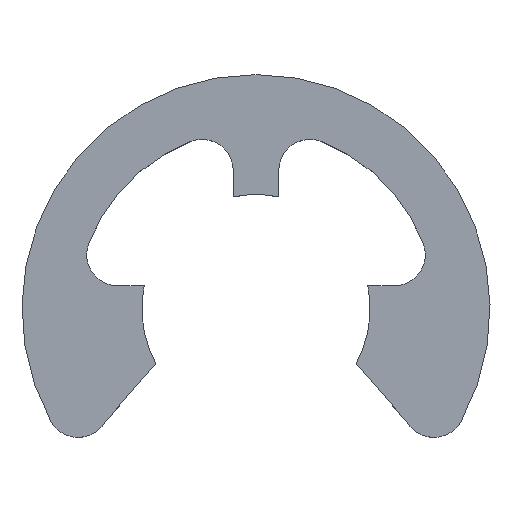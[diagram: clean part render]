
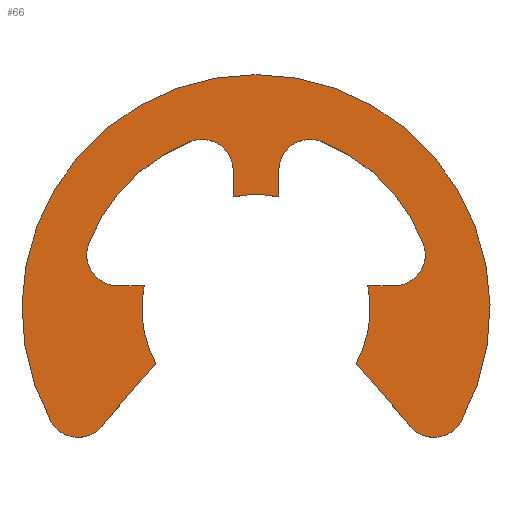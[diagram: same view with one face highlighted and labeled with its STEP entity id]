
A CAD part, top view. The second image highlights one B-rep face of the part: STEP entity #66.
In plain terms, the highlighted planar face has unit normal (0, 0, 1).
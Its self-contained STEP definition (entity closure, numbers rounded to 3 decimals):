
#66=ADVANCED_FACE('',(#86),#234,.T.);
#86=FACE_OUTER_BOUND('',#106,.F.);
#106=EDGE_LOOP('',(#126,#127,#128,#129,#130,#131,#132,#133,#134,#135,#136,
#137,#138,#139,#140,#141,#142,#143));
#126=ORIENTED_EDGE('',*,*,#302,.T.);
#127=ORIENTED_EDGE('',*,*,#319,.T.);
#128=ORIENTED_EDGE('',*,*,#318,.T.);
#129=ORIENTED_EDGE('',*,*,#317,.T.);
#130=ORIENTED_EDGE('',*,*,#316,.T.);
#131=ORIENTED_EDGE('',*,*,#315,.T.);
#132=ORIENTED_EDGE('',*,*,#314,.F.);
#133=ORIENTED_EDGE('',*,*,#313,.F.);
#134=ORIENTED_EDGE('',*,*,#312,.F.);
#135=ORIENTED_EDGE('',*,*,#311,.T.);
#136=ORIENTED_EDGE('',*,*,#310,.T.);
#137=ORIENTED_EDGE('',*,*,#309,.T.);
#138=ORIENTED_EDGE('',*,*,#308,.T.);
#139=ORIENTED_EDGE('',*,*,#307,.T.);
#140=ORIENTED_EDGE('',*,*,#306,.T.);
#141=ORIENTED_EDGE('',*,*,#305,.T.);
#142=ORIENTED_EDGE('',*,*,#304,.T.);
#143=ORIENTED_EDGE('',*,*,#303,.T.);
#234=PLANE('',#442);
#242=LINE('',#623,#272);
#243=LINE('',#625,#273);
#244=LINE('',#629,#274);
#245=LINE('',#631,#275);
#246=LINE('',#635,#276);
#247=LINE('',#637,#277);
#272=VECTOR('',#467,0.691);
#273=VECTOR('',#470,0.691);
#274=VECTOR('',#477,0.691);
#275=VECTOR('',#480,2.039);
#276=VECTOR('',#487,2.039);
#277=VECTOR('',#490,0.691);
#302=EDGE_CURVE('',#415,#414,#356,.T.);
#303=EDGE_CURVE('',#413,#415,#242,.T.);
#304=EDGE_CURVE('',#412,#413,#357,.T.);
#305=EDGE_CURVE('',#411,#412,#243,.T.);
#306=EDGE_CURVE('',#410,#411,#358,.T.);
#307=EDGE_CURVE('',#409,#410,#359,.T.);
#308=EDGE_CURVE('',#408,#409,#360,.T.);
#309=EDGE_CURVE('',#407,#408,#244,.T.);
#310=EDGE_CURVE('',#406,#407,#361,.T.);
#311=EDGE_CURVE('',#405,#406,#245,.T.);
#312=EDGE_CURVE('',#405,#404,#362,.T.);
#313=EDGE_CURVE('',#404,#403,#363,.T.);
#314=EDGE_CURVE('',#403,#402,#364,.T.);
#315=EDGE_CURVE('',#401,#402,#246,.T.);
#316=EDGE_CURVE('',#400,#401,#365,.T.);
#317=EDGE_CURVE('',#399,#400,#247,.T.);
#318=EDGE_CURVE('',#398,#399,#366,.T.);
#319=EDGE_CURVE('',#414,#398,#367,.T.);
#356=CIRCLE('',#418,0.819);
#357=CIRCLE('',#419,3.);
#358=CIRCLE('',#420,0.819);
#359=CIRCLE('',#421,4.716);
#360=CIRCLE('',#422,0.819);
#361=CIRCLE('',#423,3.);
#362=CIRCLE('',#424,0.819);
#363=CIRCLE('',#425,6.15);
#364=CIRCLE('',#426,0.819);
#365=CIRCLE('',#427,3.);
#366=CIRCLE('',#428,0.819);
#367=CIRCLE('',#429,4.716);
#398=VERTEX_POINT('',#604);
#399=VERTEX_POINT('',#605);
#400=VERTEX_POINT('',#606);
#401=VERTEX_POINT('',#607);
#402=VERTEX_POINT('',#608);
#403=VERTEX_POINT('',#609);
#404=VERTEX_POINT('',#610);
#405=VERTEX_POINT('',#611);
#406=VERTEX_POINT('',#612);
#407=VERTEX_POINT('',#613);
#408=VERTEX_POINT('',#614);
#409=VERTEX_POINT('',#615);
#410=VERTEX_POINT('',#616);
#411=VERTEX_POINT('',#617);
#412=VERTEX_POINT('',#618);
#413=VERTEX_POINT('',#619);
#414=VERTEX_POINT('',#620);
#415=VERTEX_POINT('',#621);
#418=AXIS2_PLACEMENT_3D('',#622,#465,#466);
#419=AXIS2_PLACEMENT_3D('',#624,#468,#469);
#420=AXIS2_PLACEMENT_3D('',#626,#471,#472);
#421=AXIS2_PLACEMENT_3D('',#627,#473,#474);
#422=AXIS2_PLACEMENT_3D('',#628,#475,#476);
#423=AXIS2_PLACEMENT_3D('',#630,#478,#479);
#424=AXIS2_PLACEMENT_3D('',#632,#481,#482);
#425=AXIS2_PLACEMENT_3D('',#633,#483,#484);
#426=AXIS2_PLACEMENT_3D('',#634,#485,#486);
#427=AXIS2_PLACEMENT_3D('',#636,#488,#489);
#428=AXIS2_PLACEMENT_3D('',#638,#491,#492);
#429=AXIS2_PLACEMENT_3D('',#639,#493,#494);
#442=AXIS2_PLACEMENT_3D('',#676,#543,#544);
#465=DIRECTION('',(0.,0.,1.));
#466=DIRECTION('',(1.,0.,0.));
#467=DIRECTION('',(0.,1.,0.));
#468=DIRECTION('',(0.,0.,1.));
#469=DIRECTION('',(0.2,0.98,0.));
#470=DIRECTION('',(0.,-1.,0.));
#471=DIRECTION('',(0.,0.,1.));
#472=DIRECTION('',(0.364,0.931,0.));
#473=DIRECTION('',(0.,0.,1.));
#474=DIRECTION('',(0.931,0.364,0.));
#475=DIRECTION('',(0.,0.,1.));
#476=DIRECTION('',(0.,-1.,0.));
#477=DIRECTION('',(1.,0.,0.));
#478=DIRECTION('',(0.,0.,1.));
#479=DIRECTION('',(0.877,-0.481,0.));
#480=DIRECTION('',(-0.656,0.754,0.));
#481=DIRECTION('',(0.,0.,1.));
#482=DIRECTION('',(-0.861,-0.509,0.));
#483=DIRECTION('',(0.,0.,1.));
#484=DIRECTION('',(0.877,-0.481,0.));
#485=DIRECTION('',(0.,0.,1.));
#486=DIRECTION('',(-0.877,-0.481,0.));
#487=DIRECTION('',(-0.656,-0.754,0.));
#488=DIRECTION('',(0.,0.,1.));
#489=DIRECTION('',(-0.98,0.2,0.));
#490=DIRECTION('',(1.,0.,0.));
#491=DIRECTION('',(0.,0.,1.));
#492=DIRECTION('',(-0.931,0.364,0.));
#493=DIRECTION('',(0.,0.,1.));
#494=DIRECTION('',(-0.364,0.931,0.));
#543=DIRECTION('',(0.,0.,1.));
#544=DIRECTION('',(1.,0.,0.));
#604=CARTESIAN_POINT('',(-63.853,1.712,-195.75));
#605=CARTESIAN_POINT('',(-63.09,0.595,-195.75));
#606=CARTESIAN_POINT('',(-62.399,0.595,-195.75));
#607=CARTESIAN_POINT('',(-62.09,-1.448,-195.75));
#608=CARTESIAN_POINT('',(-63.429,-2.987,-195.75));
#609=CARTESIAN_POINT('',(-64.852,-2.964,-195.75));
#610=CARTESIAN_POINT('',(-54.069,-2.964,-195.75));
#611=CARTESIAN_POINT('',(-55.491,-2.987,-195.75));
#612=CARTESIAN_POINT('',(-56.83,-1.448,-195.75));
#613=CARTESIAN_POINT('',(-56.521,0.595,-195.75));
#614=CARTESIAN_POINT('',(-55.83,0.595,-195.75));
#615=CARTESIAN_POINT('',(-55.067,1.712,-195.75));
#616=CARTESIAN_POINT('',(-57.743,4.388,-195.75));
#617=CARTESIAN_POINT('',(-58.86,3.625,-195.75));
#618=CARTESIAN_POINT('',(-58.86,2.934,-195.75));
#619=CARTESIAN_POINT('',(-60.06,2.934,-195.75));
#620=CARTESIAN_POINT('',(-61.177,4.388,-195.75));
#621=CARTESIAN_POINT('',(-60.06,3.625,-195.75));
#622=CARTESIAN_POINT('',(-60.879,3.625,-195.75));
#623=CARTESIAN_POINT('',(-60.06,2.934,-195.75));
#624=CARTESIAN_POINT('',(-59.46,-0.005,-195.75));
#625=CARTESIAN_POINT('',(-58.86,3.625,-195.75));
#626=CARTESIAN_POINT('',(-58.041,3.625,-195.75));
#627=CARTESIAN_POINT('',(-59.46,-0.005,-195.75));
#628=CARTESIAN_POINT('',(-55.83,1.414,-195.75));
#629=CARTESIAN_POINT('',(-56.521,0.595,-195.75));
#630=CARTESIAN_POINT('',(-59.46,-0.005,-195.75));
#631=CARTESIAN_POINT('',(-55.491,-2.987,-195.75));
#632=CARTESIAN_POINT('',(-54.786,-2.57,-195.75));
#633=CARTESIAN_POINT('',(-59.46,-0.005,-195.75));
#634=CARTESIAN_POINT('',(-64.134,-2.57,-195.75));
#635=CARTESIAN_POINT('',(-62.09,-1.448,-195.75));
#636=CARTESIAN_POINT('',(-59.46,-0.005,-195.75));
#637=CARTESIAN_POINT('',(-63.09,0.595,-195.75));
#638=CARTESIAN_POINT('',(-63.09,1.414,-195.75));
#639=CARTESIAN_POINT('',(-59.46,-0.005,-195.75));
#676=CARTESIAN_POINT('',(-65.741,-3.513,-195.75));
